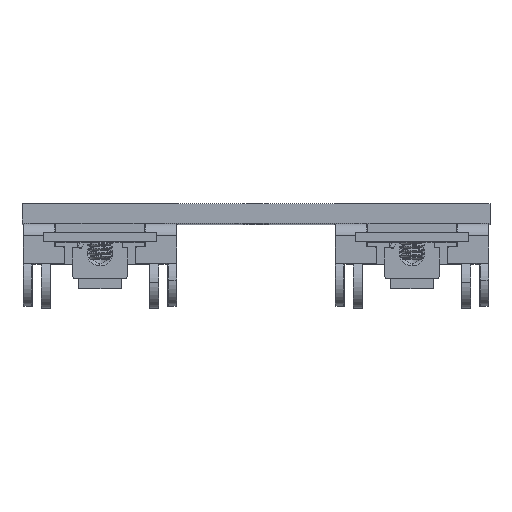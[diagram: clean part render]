
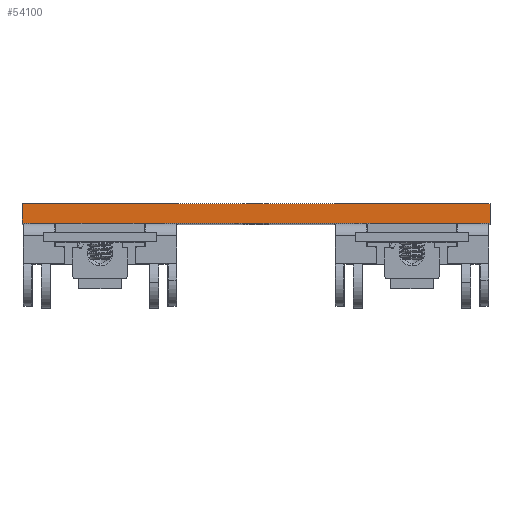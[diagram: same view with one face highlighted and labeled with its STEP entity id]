
A CAD part, top view. The second image highlights one B-rep face of the part: STEP entity #54100.
In plain terms, the highlighted planar face has unit normal (0, 0, 1).
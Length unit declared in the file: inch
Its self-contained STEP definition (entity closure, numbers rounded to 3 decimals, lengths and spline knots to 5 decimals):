
#3968 = EDGE_CURVE ( 'NONE', #60256, #45537, #104110, .T. ) ;
#14079 = DIRECTION ( 'NONE',  ( 0., 0., -1. ) ) ;
#15279 = DIRECTION ( 'NONE',  ( -1., 0., 0. ) ) ;
#32451 = ORIENTED_EDGE ( 'NONE', *, *, #3968, .T. ) ;
#32502 = CARTESIAN_POINT ( 'NONE',  ( -1.5, 0.125, 3. ) ) ;
#32562 = DIRECTION ( 'NONE',  ( 1., 0., 0. ) ) ;
#32702 = FACE_OUTER_BOUND ( 'NONE', #51552, .T. ) ;
#33885 = VERTEX_POINT ( 'NONE', #89146 ) ;
#35422 = CARTESIAN_POINT ( 'NONE',  ( -1.5, 0., 3. ) ) ;
#37007 = PLANE ( 'NONE',  #118338 ) ;
#38064 = CARTESIAN_POINT ( 'NONE',  ( 0., 0.125, 3. ) ) ;
#38902 = LINE ( 'NONE', #120093, #91456 ) ;
#45537 = VERTEX_POINT ( 'NONE', #35422 ) ;
#51552 = EDGE_LOOP ( 'NONE', ( #78596, #57323, #98018, #32451 ) ) ;
#54100 = ADVANCED_FACE ( 'NONE', ( #32702 ), #37007, .F. ) ;
#55738 = LINE ( 'NONE', #60226, #61571 ) ;
#56924 = EDGE_CURVE ( 'NONE', #93719, #33885, #38902, .T. ) ;
#57323 = ORIENTED_EDGE ( 'NONE', *, *, #56924, .F. ) ;
#60226 = CARTESIAN_POINT ( 'NONE',  ( 0., 0.125, 3. ) ) ;
#60256 = VERTEX_POINT ( 'NONE', #32502 ) ;
#61571 = VECTOR ( 'NONE', #32562, 39.37008 ) ;
#69346 = CARTESIAN_POINT ( 'NONE',  ( 1.5, 0.125, 3. ) ) ;
#76381 = VECTOR ( 'NONE', #78433, 39.37008 ) ;
#77647 = CARTESIAN_POINT ( 'NONE',  ( 0., 0., 3. ) ) ;
#78433 = DIRECTION ( 'NONE',  ( 1., 0., 0. ) ) ;
#78596 = ORIENTED_EDGE ( 'NONE', *, *, #111722, .T. ) ;
#83591 = VECTOR ( 'NONE', #108012, 39.37008 ) ;
#89146 = CARTESIAN_POINT ( 'NONE',  ( 1.5, 0., 3. ) ) ;
#90040 = CARTESIAN_POINT ( 'NONE',  ( -1.5, 0.125, 3. ) ) ;
#91456 = VECTOR ( 'NONE', #111498, 39.37008 ) ;
#91678 = EDGE_CURVE ( 'NONE', #60256, #93719, #55738, .T. ) ;
#93719 = VERTEX_POINT ( 'NONE', #69346 ) ;
#98018 = ORIENTED_EDGE ( 'NONE', *, *, #91678, .F. ) ;
#104110 = LINE ( 'NONE', #90040, #83591 ) ;
#104186 = LINE ( 'NONE', #77647, #76381 ) ;
#108012 = DIRECTION ( 'NONE',  ( 0., -1., 0. ) ) ;
#111498 = DIRECTION ( 'NONE',  ( 0., -1., 0. ) ) ;
#111722 = EDGE_CURVE ( 'NONE', #45537, #33885, #104186, .T. ) ;
#118338 = AXIS2_PLACEMENT_3D ( 'NONE', #38064, #14079, #15279 ) ;
#120093 = CARTESIAN_POINT ( 'NONE',  ( 1.5, 0.125, 3. ) ) ;
